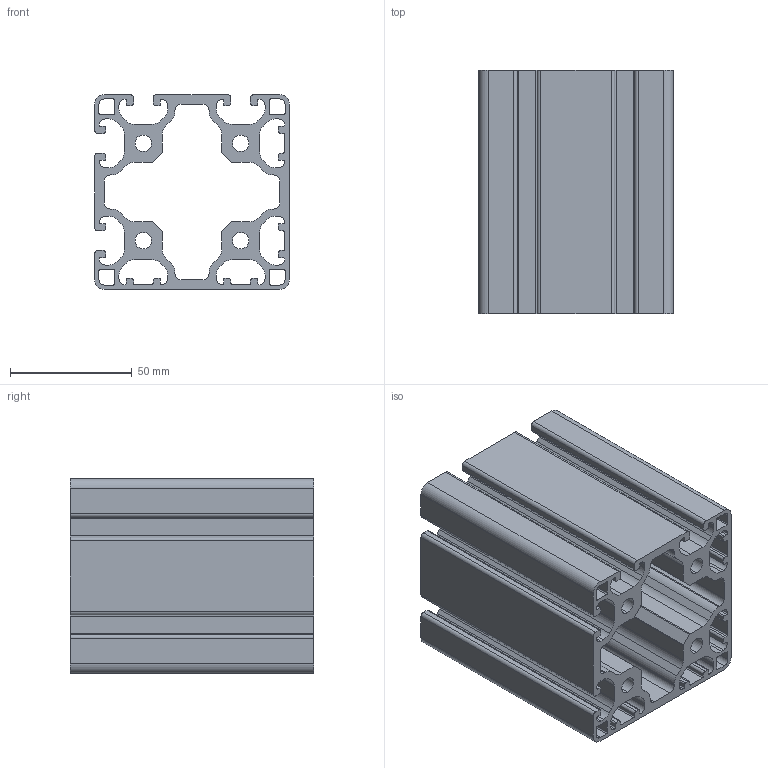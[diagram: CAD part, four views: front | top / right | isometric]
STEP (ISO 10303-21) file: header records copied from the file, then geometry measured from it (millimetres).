
FILE_DESCRIPTION (( 'STEP AP203' ), '1' );
FILE_NAME ('0108P8080-4N90L.STEP', '2024-02-29T12:03:56', ( 'Windows-Benutzer' ), ( '' ), 'SwSTEP 2.0', 'SolidWorks 2023', '' );
FILE_SCHEMA (( 'CONFIG_CONTROL_DESIGN' ));
Length unit declared in the file: millimetre
Products named in the file (1): 0108P8080-4N90L
Bounding box: 80 x 100 x 80 mm (x, y, z)
Volume: 206219.1 mm3; surface area: 120875.2 mm2
Topology: 1 solids, 1 shells, 330 faces, 984 edges, 656 vertices
Faces by surface type: cylinder 172, plane 158
Entity records: 11321 total; most frequent: DIRECTION 1990, CARTESIAN_POINT 1971, ORIENTED_EDGE 1968, EDGE_CURVE 984, AXIS2_PLACEMENT_3D 675, VERTEX_POINT 656, VECTOR 640, LINE 640
